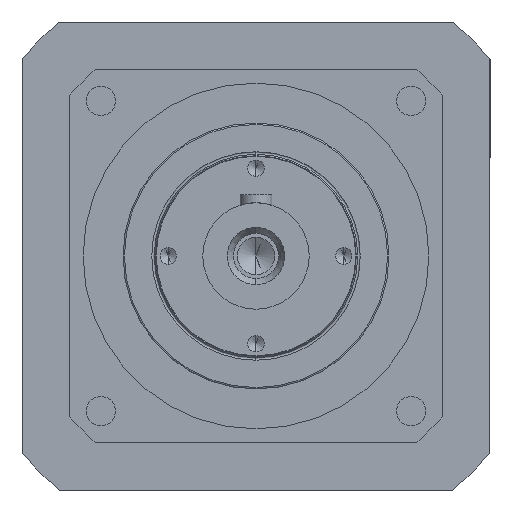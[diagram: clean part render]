
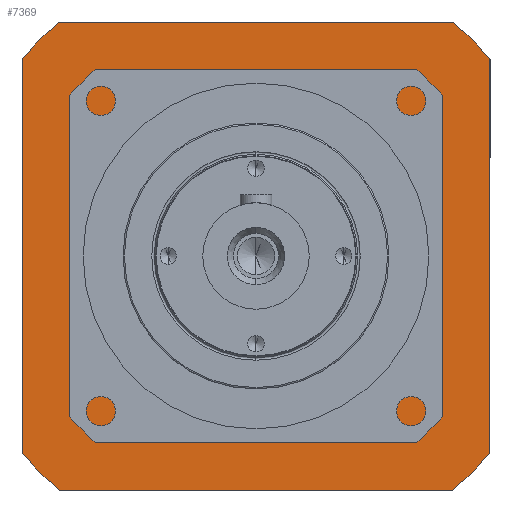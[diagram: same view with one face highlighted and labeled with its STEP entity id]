
A CAD part, left-side view. The second image highlights one B-rep face of the part: STEP entity #7369.
In plain terms, the highlighted planar face has unit normal (-1, 0, 0) as drawn and (0, 0, 1) by its records, which use the part's own axes.
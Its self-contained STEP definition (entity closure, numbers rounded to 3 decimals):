
#60 = CIRCLE ( 'NONE', #124, 115. ) ;
#80 = AXIS2_PLACEMENT_3D ( 'NONE', #5422, #5274, #5141 ) ;
#86 = VERTEX_POINT ( 'NONE', #7567 ) ;
#96 = AXIS2_PLACEMENT_3D ( 'NONE', #8573, #8526, #8330 ) ;
#124 = AXIS2_PLACEMENT_3D ( 'NONE', #11404, #11097, #2501 ) ;
#275 = AXIS2_PLACEMENT_3D ( 'NONE', #2881, #2480, #2346 ) ;
#389 = EDGE_CURVE ( 'NONE', #3682, #2005, #7552, .T. ) ;
#402 = AXIS2_PLACEMENT_3D ( 'NONE', #1571, #1435, #1316 ) ;
#586 = VECTOR ( 'NONE', #7197, 1000. ) ;
#625 = LINE ( 'NONE', #7255, #586 ) ;
#817 = CARTESIAN_POINT ( 'NONE',  ( 62.5, 0., 0. ) ) ;
#890 = DIRECTION ( 'NONE',  ( -1., 0., 0. ) ) ;
#923 = PLANE ( 'NONE',  #4033 ) ;
#957 = CARTESIAN_POINT ( 'NONE',  ( 0., 62.5, 0. ) ) ;
#1048 = AXIS2_PLACEMENT_3D ( 'NONE', #9557, #9488, #9245 ) ;
#1316 = DIRECTION ( 'NONE',  ( 1., 0., 0. ) ) ;
#1360 = CIRCLE ( 'NONE', #275, 115. ) ;
#1435 = DIRECTION ( 'NONE',  ( 0., 0., 1. ) ) ;
#1472 = DIRECTION ( 'NONE',  ( 0., 0., -1. ) ) ;
#1571 = CARTESIAN_POINT ( 'NONE',  ( 0., 0., 0. ) ) ;
#1969 = EDGE_CURVE ( 'NONE', #2005, #3682, #2195, .T. ) ;
#1986 = VECTOR ( 'NONE', #10356, 1000. ) ;
#2003 = LINE ( 'NONE', #11953, #1986 ) ;
#2005 = VERTEX_POINT ( 'NONE', #817 ) ;
#2016 = EDGE_CURVE ( 'NONE', #8805, #4629, #2003, .T. ) ;
#2160 = EDGE_CURVE ( 'NONE', #4629, #86, #1360, .T. ) ;
#2195 = CIRCLE ( 'NONE', #402, 62.5 ) ;
#2265 = EDGE_CURVE ( 'NONE', #86, #12043, #625, .T. ) ;
#2346 = DIRECTION ( 'NONE',  ( 1., 0., 0. ) ) ;
#2407 = EDGE_CURVE ( 'NONE', #12043, #11810, #60, .T. ) ;
#2429 = EDGE_CURVE ( 'NONE', #11810, #11937, #12106, .T. ) ;
#2443 = EDGE_CURVE ( 'NONE', #11937, #11820, #11963, .T. ) ;
#2474 = EDGE_CURVE ( 'NONE', #11820, #11802, #11866, .T. ) ;
#2480 = DIRECTION ( 'NONE',  ( 0., 0., 1. ) ) ;
#2493 = EDGE_CURVE ( 'NONE', #11802, #8805, #11722, .T. ) ;
#2501 = DIRECTION ( 'NONE',  ( 1., 0., 0. ) ) ;
#2545 = CARTESIAN_POINT ( 'NONE',  ( 88., -74.034, 0. ) ) ;
#2881 = CARTESIAN_POINT ( 'NONE',  ( 0., 0., 0. ) ) ;
#3682 = VERTEX_POINT ( 'NONE', #12045 ) ;
#4033 = AXIS2_PLACEMENT_3D ( 'NONE', #957, #1472, #890 ) ;
#4197 = ORIENTED_EDGE ( 'NONE', *, *, #389, .F. ) ;
#4629 = VERTEX_POINT ( 'NONE', #10340 ) ;
#5141 = DIRECTION ( 'NONE',  ( 1., 0., 0. ) ) ;
#5274 = DIRECTION ( 'NONE',  ( 0., 0., 1. ) ) ;
#5422 = CARTESIAN_POINT ( 'NONE',  ( 0., 0., 0. ) ) ;
#5512 = ORIENTED_EDGE ( 'NONE', *, *, #1969, .F. ) ;
#5707 = ORIENTED_EDGE ( 'NONE', *, *, #2016, .T. ) ;
#6073 = ORIENTED_EDGE ( 'NONE', *, *, #2160, .T. ) ;
#6335 = ORIENTED_EDGE ( 'NONE', *, *, #2265, .T. ) ;
#6404 = ORIENTED_EDGE ( 'NONE', *, *, #2407, .T. ) ;
#6590 = ORIENTED_EDGE ( 'NONE', *, *, #2429, .T. ) ;
#6988 = ORIENTED_EDGE ( 'NONE', *, *, #2443, .T. ) ;
#7083 = ORIENTED_EDGE ( 'NONE', *, *, #2474, .T. ) ;
#7117 = CARTESIAN_POINT ( 'NONE',  ( -88., 74.034, 0. ) ) ;
#7127 = ORIENTED_EDGE ( 'NONE', *, *, #2493, .T. ) ;
#7197 = DIRECTION ( 'NONE',  ( -1., 0., 0. ) ) ;
#7255 = CARTESIAN_POINT ( 'NONE',  ( -88., 88., 0. ) ) ;
#7369 = ADVANCED_FACE ( 'NONE', ( #11205, #10978 ), #923, .F. ) ;
#7519 = DIRECTION ( 'NONE',  ( 1., 0., 0. ) ) ;
#7552 = CIRCLE ( 'NONE', #1048, 62.5 ) ;
#7567 = CARTESIAN_POINT ( 'NONE',  ( 74.034, 88., 0. ) ) ;
#8330 = DIRECTION ( 'NONE',  ( 1., 0., 0. ) ) ;
#8526 = DIRECTION ( 'NONE',  ( 0., 0., 1. ) ) ;
#8573 = CARTESIAN_POINT ( 'NONE',  ( 0., 0., 0. ) ) ;
#8725 = CARTESIAN_POINT ( 'NONE',  ( -88., -88., 0. ) ) ;
#8805 = VERTEX_POINT ( 'NONE', #2545 ) ;
#9245 = DIRECTION ( 'NONE',  ( 1., 0., 0. ) ) ;
#9488 = DIRECTION ( 'NONE',  ( 0., 0., 1. ) ) ;
#9557 = CARTESIAN_POINT ( 'NONE',  ( 0., 0., 0. ) ) ;
#9685 = DIRECTION ( 'NONE',  ( 0., -1., 0. ) ) ;
#10100 = EDGE_LOOP ( 'NONE', ( #5512, #4197 ) ) ;
#10148 = CARTESIAN_POINT ( 'NONE',  ( -88., 88., 0. ) ) ;
#10340 = CARTESIAN_POINT ( 'NONE',  ( 88., 74.034, 0. ) ) ;
#10356 = DIRECTION ( 'NONE',  ( 0., 1., 0. ) ) ;
#10783 = CARTESIAN_POINT ( 'NONE',  ( -74.034, 88., 0. ) ) ;
#10890 = CARTESIAN_POINT ( 'NONE',  ( -88., -74.034, 0. ) ) ;
#10978 = FACE_OUTER_BOUND ( 'NONE', #11641, .T. ) ;
#11097 = DIRECTION ( 'NONE',  ( 0., 0., 1. ) ) ;
#11121 = CARTESIAN_POINT ( 'NONE',  ( -74.034, -88., 0. ) ) ;
#11205 = FACE_BOUND ( 'NONE', #10100, .T. ) ;
#11351 = CARTESIAN_POINT ( 'NONE',  ( 74.034, -88., 0. ) ) ;
#11404 = CARTESIAN_POINT ( 'NONE',  ( 0., 0., 0. ) ) ;
#11641 = EDGE_LOOP ( 'NONE', ( #5707, #6073, #6335, #6404, #6590, #6988, #7083, #7127 ) ) ;
#11722 = CIRCLE ( 'NONE', #80, 115. ) ;
#11737 = VECTOR ( 'NONE', #7519, 1000. ) ;
#11802 = VERTEX_POINT ( 'NONE', #11351 ) ;
#11810 = VERTEX_POINT ( 'NONE', #7117 ) ;
#11820 = VERTEX_POINT ( 'NONE', #11121 ) ;
#11866 = LINE ( 'NONE', #8725, #11737 ) ;
#11937 = VERTEX_POINT ( 'NONE', #10890 ) ;
#11953 = CARTESIAN_POINT ( 'NONE',  ( 88., 88., 0. ) ) ;
#11963 = CIRCLE ( 'NONE', #96, 115. ) ;
#11977 = VECTOR ( 'NONE', #9685, 1000. ) ;
#12043 = VERTEX_POINT ( 'NONE', #10783 ) ;
#12045 = CARTESIAN_POINT ( 'NONE',  ( -62.5, 0., 0. ) ) ;
#12106 = LINE ( 'NONE', #10148, #11977 ) ;
